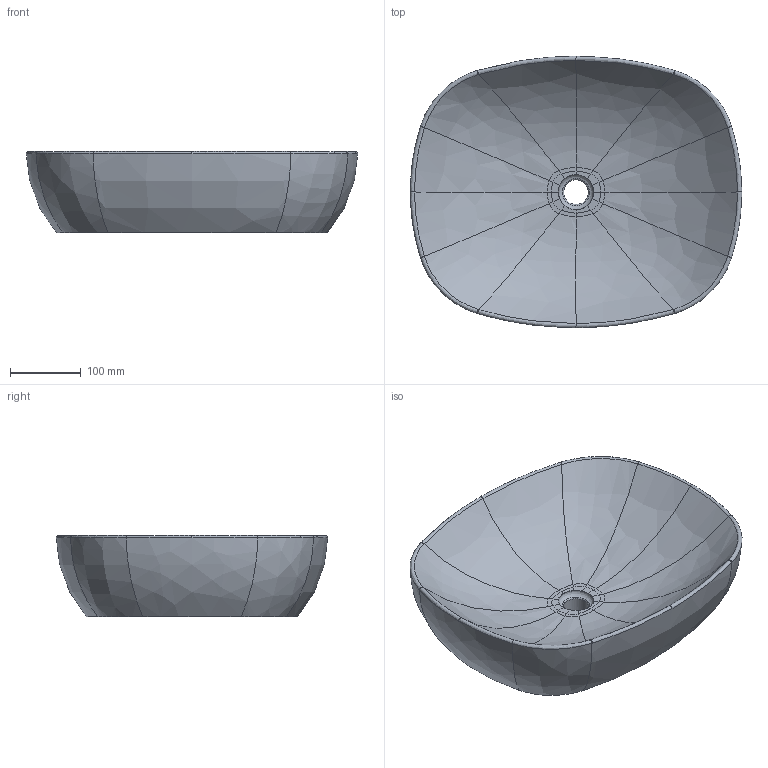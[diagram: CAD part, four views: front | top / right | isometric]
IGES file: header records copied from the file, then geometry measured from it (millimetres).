
Global section: file name: fb65024e-28f1-417d-9bee-9362ef13db3f; native system: unknown; preprocessor: unknown; author: unknown; organization: unknown; date: 20191124.203414; units: millimetre
Bounding box: 469.93 x 384.94 x 115 mm (x, y, z)
Volume: 7482418.7 mm3; surface area: 459109.3 mm2
Topology: 1 solids, 1 shells, 123 faces, 295 edges, 177 vertices
Faces by surface type: bspline 123
